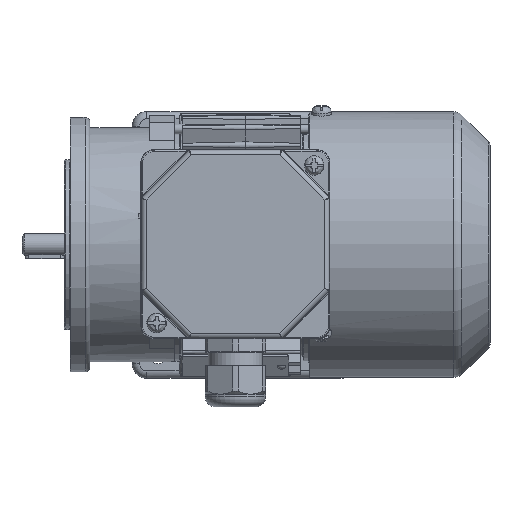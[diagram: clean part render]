
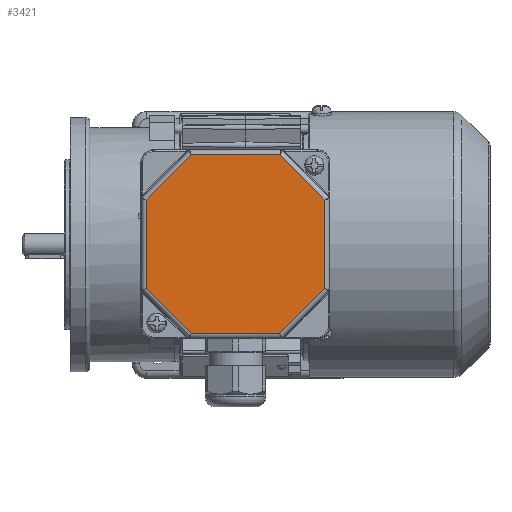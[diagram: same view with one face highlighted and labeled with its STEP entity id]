
A CAD part, top view. The second image highlights one B-rep face of the part: STEP entity #3421.
In plain terms, the highlighted planar face has unit normal (0, 0, 1).
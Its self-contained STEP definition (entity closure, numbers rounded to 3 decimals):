
#3421 = ADVANCED_FACE( '', ( #7698 ), #7699, .T. );
#7698 = FACE_OUTER_BOUND( '', #15156, .T. );
#7699 = PLANE( '', #15157 );
#15156 = EDGE_LOOP( '', ( #28721, #28722, #28723, #28724, #28725, #28726, #28727, #28728 ) );
#15157 = AXIS2_PLACEMENT_3D( '', #28729, #28730, #28731 );
#28721 = ORIENTED_EDGE( '', *, *, #42180, .T. );
#28722 = ORIENTED_EDGE( '', *, *, #40606, .T. );
#28723 = ORIENTED_EDGE( '', *, *, #42181, .T. );
#28724 = ORIENTED_EDGE( '', *, *, #40145, .T. );
#28725 = ORIENTED_EDGE( '', *, *, #42182, .T. );
#28726 = ORIENTED_EDGE( '', *, *, #40070, .T. );
#28727 = ORIENTED_EDGE( '', *, *, #42183, .T. );
#28728 = ORIENTED_EDGE( '', *, *, #39731, .T. );
#28729 = CARTESIAN_POINT( '', ( -39., 39., 12. ) );
#28730 = DIRECTION( '', ( 0., 0., 1. ) );
#28731 = DIRECTION( '', ( 1., 0., 0. ) );
#39731 = EDGE_CURVE( '', #46162, #46160, #46163, .T. );
#40070 = EDGE_CURVE( '', #46761, #46762, #46763, .T. );
#40145 = EDGE_CURVE( '', #46721, #46891, #46892, .T. );
#40606 = EDGE_CURVE( '', #47674, #47675, #47676, .T. );
#42180 = EDGE_CURVE( '', #46160, #47674, #50256, .F. );
#42181 = EDGE_CURVE( '', #47675, #46721, #50257, .F. );
#42182 = EDGE_CURVE( '', #46891, #46761, #50258, .F. );
#42183 = EDGE_CURVE( '', #46762, #46162, #50259, .F. );
#46160 = VERTEX_POINT( '', #55668 );
#46162 = VERTEX_POINT( '', #55670 );
#46163 = LINE( '', #55671, #55672 );
#46721 = VERTEX_POINT( '', #56643 );
#46761 = VERTEX_POINT( '', #56705 );
#46762 = VERTEX_POINT( '', #56706 );
#46763 = LINE( '', #56707, #56708 );
#46891 = VERTEX_POINT( '', #57042 );
#46892 = LINE( '', #57043, #57044 );
#47674 = VERTEX_POINT( '', #58423 );
#47675 = VERTEX_POINT( '', #58424 );
#47676 = LINE( '', #58425, #58426 );
#50256 = LINE( '', #63429, #63430 );
#50257 = LINE( '', #63431, #63432 );
#50258 = LINE( '', #63433, #63434 );
#50259 = LINE( '', #63435, #63436 );
#55668 = CARTESIAN_POINT( '', ( 36.825, -18.255, 12. ) );
#55670 = CARTESIAN_POINT( '', ( 18.255, -36.825, 12. ) );
#55671 = CARTESIAN_POINT( '', ( 37.401, -17.679, 12. ) );
#55672 = VECTOR( '', #72892, 1000. );
#56643 = CARTESIAN_POINT( '', ( -18.255, 36.825, 12. ) );
#56705 = CARTESIAN_POINT( '', ( -36.825, -18.255, 12. ) );
#56706 = CARTESIAN_POINT( '', ( -18.255, -36.825, 12. ) );
#56707 = CARTESIAN_POINT( '', ( -17.679, -37.401, 12. ) );
#56708 = VECTOR( '', #73304, 1000. );
#57042 = CARTESIAN_POINT( '', ( -36.825, 18.255, 12. ) );
#57043 = CARTESIAN_POINT( '', ( -37.401, 17.679, 12. ) );
#57044 = VECTOR( '', #73407, 1000. );
#58423 = CARTESIAN_POINT( '', ( 36.825, 18.255, 12. ) );
#58424 = CARTESIAN_POINT( '', ( 18.255, 36.825, 12. ) );
#58425 = CARTESIAN_POINT( '', ( 17.679, 37.401, 12. ) );
#58426 = VECTOR( '', #74008, 1000. );
#63429 = CARTESIAN_POINT( '', ( 36.825, 19.069, 12. ) );
#63430 = VECTOR( '', #76192, 1000. );
#63431 = CARTESIAN_POINT( '', ( -19.069, 36.825, 12. ) );
#63432 = VECTOR( '', #76193, 1000. );
#63433 = CARTESIAN_POINT( '', ( -36.825, -19.069, 12. ) );
#63434 = VECTOR( '', #76194, 1000. );
#63435 = CARTESIAN_POINT( '', ( 19.069, -36.825, 12. ) );
#63436 = VECTOR( '', #76195, 1000. );
#72892 = DIRECTION( '', ( 0.707, 0.707, 0. ) );
#73304 = DIRECTION( '', ( 0.707, -0.707, 0. ) );
#73407 = DIRECTION( '', ( -0.707, -0.707, 0. ) );
#74008 = DIRECTION( '', ( -0.707, 0.707, 0. ) );
#76192 = DIRECTION( '', ( 0., -1., 0. ) );
#76193 = DIRECTION( '', ( 1., 0., 0. ) );
#76194 = DIRECTION( '', ( 0., 1., 0. ) );
#76195 = DIRECTION( '', ( -1., 0., 0. ) );
